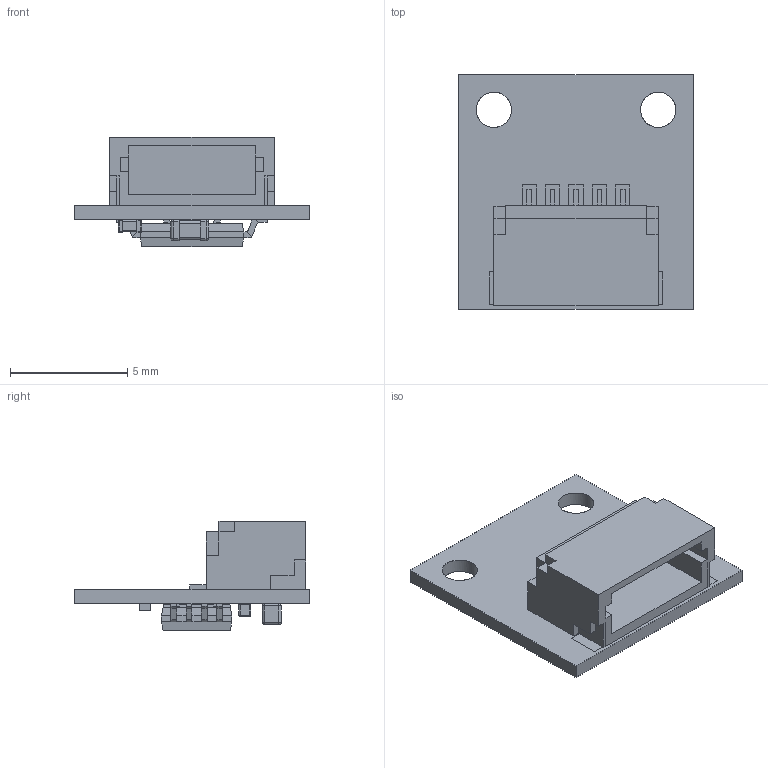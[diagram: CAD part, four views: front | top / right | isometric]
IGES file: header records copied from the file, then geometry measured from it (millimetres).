
Global section: file name: Filename.iges; native system: Open CASCADE 7.4; preprocessor: Open CASCADE IGES processor 7.4; date: 20200727.122900; units: millimetre
Bounding box: 10 x 10 x 4.64 mm (x, y, z)
Surface area: 750.2 mm2 (no closed solid volume)
Topology: 0 solids, 0 shells, 658 faces, 3698 edges, 5450 vertices
Faces by surface type: plane 494, revolution 164
